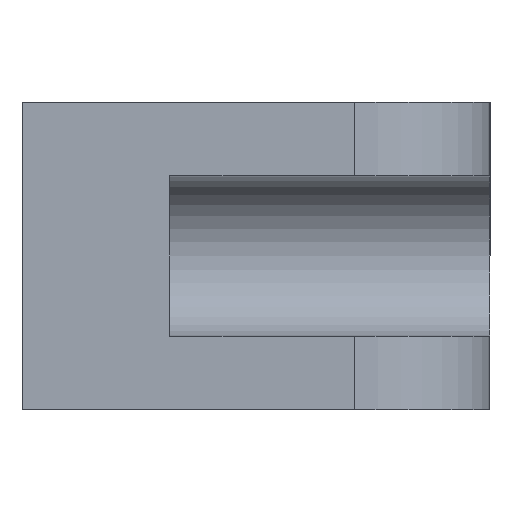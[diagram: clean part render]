
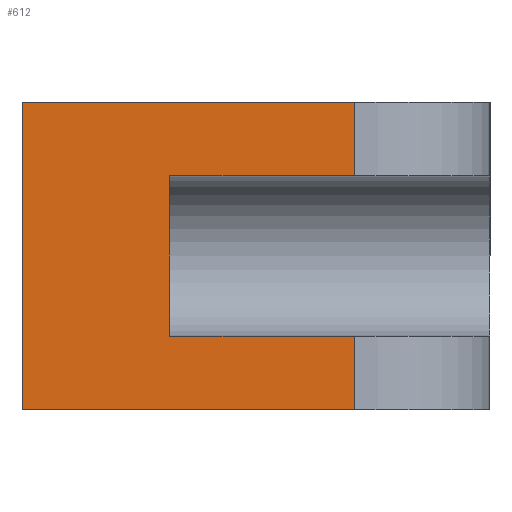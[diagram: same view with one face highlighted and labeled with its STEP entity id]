
A CAD part, left-side view. The second image highlights one B-rep face of the part: STEP entity #612.
In plain terms, the highlighted planar face has unit normal (-1, 0, 0).
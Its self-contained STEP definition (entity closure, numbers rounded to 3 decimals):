
#1 = VECTOR ( 'NONE', #705, 1000. ) ;
#2 = DIRECTION ( 'NONE',  ( 0., 0., 1. ) ) ;
#6 = ORIENTED_EDGE ( 'NONE', *, *, #125, .F. ) ;
#32 = VECTOR ( 'NONE', #522, 1000. ) ;
#43 = EDGE_CURVE ( 'NONE', #446, #173, #689, .T. ) ;
#46 = VERTEX_POINT ( 'NONE', #197 ) ;
#52 = EDGE_CURVE ( 'NONE', #428, #625, #323, .T. ) ;
#71 = ORIENTED_EDGE ( 'NONE', *, *, #204, .T. ) ;
#75 = CARTESIAN_POINT ( 'NONE',  ( 0., 0., 12.5 ) ) ;
#76 = EDGE_CURVE ( 'NONE', #520, #173, #177, .T. ) ;
#96 = LINE ( 'NONE', #223, #355 ) ;
#114 = FACE_OUTER_BOUND ( 'NONE', #495, .T. ) ;
#115 = VECTOR ( 'NONE', #469, 1000. ) ;
#118 = EDGE_CURVE ( 'NONE', #625, #46, #96, .T. ) ;
#125 = EDGE_CURVE ( 'NONE', #345, #46, #713, .T. ) ;
#149 = PLANE ( 'NONE',  #358 ) ;
#173 = VERTEX_POINT ( 'NONE', #581 ) ;
#177 = LINE ( 'NONE', #427, #433 ) ;
#190 = ORIENTED_EDGE ( 'NONE', *, *, #508, .F. ) ;
#197 = CARTESIAN_POINT ( 'NONE',  ( 0., 11., -6.5 ) ) ;
#204 = EDGE_CURVE ( 'NONE', #446, #428, #212, .T. ) ;
#209 = DIRECTION ( 'NONE',  ( 1., 0., 0. ) ) ;
#210 = ORIENTED_EDGE ( 'NONE', *, *, #118, .T. ) ;
#212 = LINE ( 'NONE', #331, #222 ) ;
#222 = VECTOR ( 'NONE', #709, 1000. ) ;
#223 = CARTESIAN_POINT ( 'NONE',  ( 0., 11., 12.5 ) ) ;
#239 = CARTESIAN_POINT ( 'NONE',  ( 0., 38., -12.5 ) ) ;
#258 = CARTESIAN_POINT ( 'NONE',  ( 0., 11., -12.5 ) ) ;
#296 = DIRECTION ( 'NONE',  ( 0., -1., 0. ) ) ;
#297 = ORIENTED_EDGE ( 'NONE', *, *, #558, .T. ) ;
#310 = CARTESIAN_POINT ( 'NONE',  ( 0., 11., 6.5 ) ) ;
#315 = CARTESIAN_POINT ( 'NONE',  ( 0., 26., -6.5 ) ) ;
#323 = LINE ( 'NONE', #609, #404 ) ;
#328 = CARTESIAN_POINT ( 'NONE',  ( 0., 26., 6.5 ) ) ;
#331 = CARTESIAN_POINT ( 'NONE',  ( 0., 38., 12.5 ) ) ;
#345 = VERTEX_POINT ( 'NONE', #432 ) ;
#350 = CARTESIAN_POINT ( 'NONE',  ( 0., 38., 12.5 ) ) ;
#353 = DIRECTION ( 'NONE',  ( 0., -1., 0. ) ) ;
#355 = VECTOR ( 'NONE', #2, 1000. ) ;
#358 = AXIS2_PLACEMENT_3D ( 'NONE', #477, #209, #589 ) ;
#404 = VECTOR ( 'NONE', #296, 1000. ) ;
#427 = CARTESIAN_POINT ( 'NONE',  ( 0., 11., 12.5 ) ) ;
#428 = VERTEX_POINT ( 'NONE', #239 ) ;
#432 = CARTESIAN_POINT ( 'NONE',  ( 0., 26., -6.5 ) ) ;
#433 = VECTOR ( 'NONE', #726, 1000. ) ;
#440 = LINE ( 'NONE', #640, #1 ) ;
#446 = VERTEX_POINT ( 'NONE', #350 ) ;
#469 = DIRECTION ( 'NONE',  ( 0., -1., 0. ) ) ;
#474 = LINE ( 'NONE', #610, #32 ) ;
#477 = CARTESIAN_POINT ( 'NONE',  ( 0., 0., 12.5 ) ) ;
#495 = EDGE_LOOP ( 'NONE', ( #190, #297, #603, #729, #71, #594, #210, #6 ) ) ;
#508 = EDGE_CURVE ( 'NONE', #728, #345, #474, .T. ) ;
#520 = VERTEX_POINT ( 'NONE', #310 ) ;
#522 = DIRECTION ( 'NONE',  ( 0., 0., -1. ) ) ;
#534 = VECTOR ( 'NONE', #353, 1000. ) ;
#558 = EDGE_CURVE ( 'NONE', #728, #520, #440, .T. ) ;
#581 = CARTESIAN_POINT ( 'NONE',  ( 0., 11., 12.5 ) ) ;
#589 = DIRECTION ( 'NONE',  ( 0., 0., -1. ) ) ;
#594 = ORIENTED_EDGE ( 'NONE', *, *, #52, .T. ) ;
#603 = ORIENTED_EDGE ( 'NONE', *, *, #76, .T. ) ;
#609 = CARTESIAN_POINT ( 'NONE',  ( 0., 0., -12.5 ) ) ;
#610 = CARTESIAN_POINT ( 'NONE',  ( 0., 26., 6.5 ) ) ;
#612 = ADVANCED_FACE ( 'NONE', ( #114 ), #149, .F. ) ;
#625 = VERTEX_POINT ( 'NONE', #258 ) ;
#640 = CARTESIAN_POINT ( 'NONE',  ( 0., 26., 6.5 ) ) ;
#689 = LINE ( 'NONE', #75, #115 ) ;
#705 = DIRECTION ( 'NONE',  ( 0., -1., 0. ) ) ;
#709 = DIRECTION ( 'NONE',  ( 0., 0., -1. ) ) ;
#713 = LINE ( 'NONE', #315, #534 ) ;
#726 = DIRECTION ( 'NONE',  ( 0., 0., 1. ) ) ;
#728 = VERTEX_POINT ( 'NONE', #328 ) ;
#729 = ORIENTED_EDGE ( 'NONE', *, *, #43, .F. ) ;
